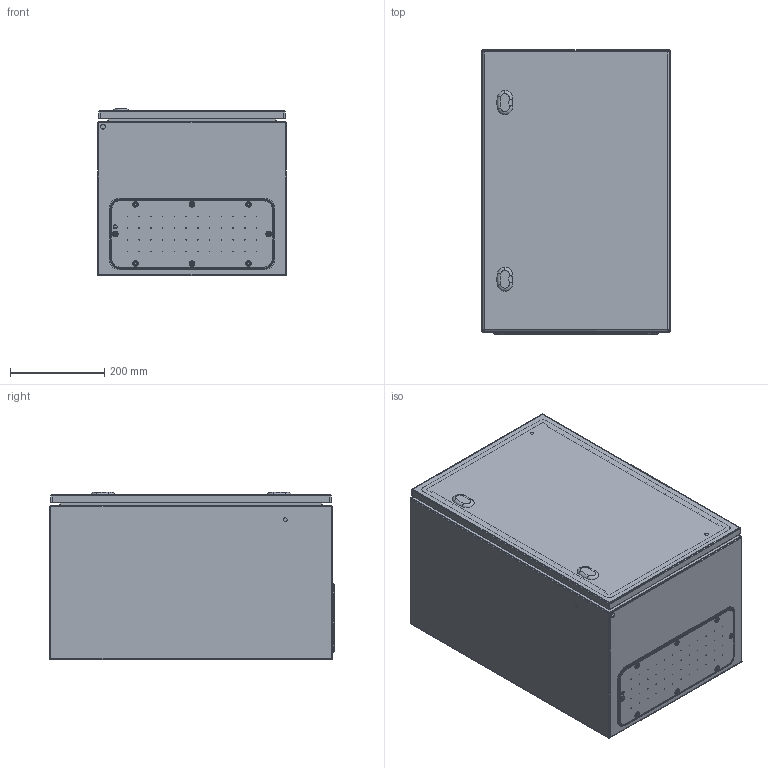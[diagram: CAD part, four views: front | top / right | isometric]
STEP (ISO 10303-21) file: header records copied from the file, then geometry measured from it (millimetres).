
FILE_DESCRIPTION (( 'STEP AP203' ), '1' );
FILE_NAME ('0400x0600x0350 dx.step', '2021-09-07T06:40:47', ( '' ), ( '' ), 'SwSTEP 2.0', 'SolidWorks 2021', '' );
FILE_SCHEMA (( 'CONFIG_CONTROL_DESIGN' ));
Length unit declared in the file: millimetre
Products named in the file (7): AR_ECOR_Piastra_09; AR_ECOR_involucro_0400x0600x0350; AR_ECOR_porta_singola_0400x0600; 0400x0600x0350 dx; AR_ECOR_chiusura_std_STD; AR_ECOR_montaggio_porta_singola_0400x0600; AR_ECOR_flangia IC_04
Assembly tree (7 placements, depth 3):
  0400x0600x0350 dx
    AR_ECOR_involucro_0400x0600x0350
    AR_ECOR_montaggio_porta_singola_0400x0600
      AR_ECOR_porta_singola_0400x0600
      AR_ECOR_chiusura_std_STD  x2
    AR_ECOR_flangia IC_04
    AR_ECOR_Piastra_09
Bounding box: 400 x 604 x 355 mm (x, y, z)
Volume: 2425699.5 mm3; surface area: 2959922.1 mm2
Topology: 6 solids, 6 shells, 769 faces, 1893 edges, 1194 vertices
Faces by surface type: cylinder 391, plane 228, cone 60, torus 46, bspline 28, sphere 16
Entity records: 24203 total; most frequent: CARTESIAN_POINT 4977, DIRECTION 4119, ORIENTED_EDGE 3668, EDGE_CURVE 1834, AXIS2_PLACEMENT_3D 1645, VERTEX_POINT 1168, EDGE_LOOP 988, CIRCLE 909
